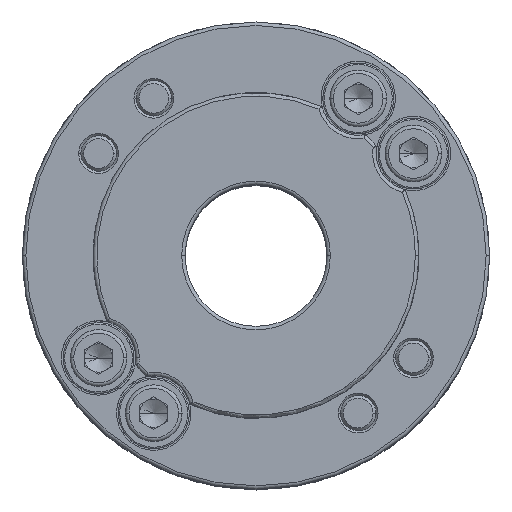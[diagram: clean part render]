
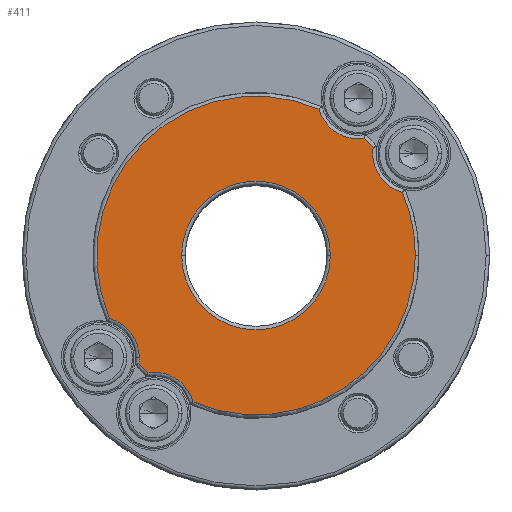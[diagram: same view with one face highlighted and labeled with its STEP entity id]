
A CAD part, top view. The second image highlights one B-rep face of the part: STEP entity #411.
In plain terms, the highlighted planar face has unit normal (0, 0, 1).
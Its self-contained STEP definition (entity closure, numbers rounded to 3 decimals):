
#47 = VERTEX_POINT ( 'NONE', #4621 ) ;
#54 = EDGE_CURVE ( 'NONE', #55, #56, #4669, .T. ) ;
#55 = VERTEX_POINT ( 'NONE', #4664 ) ;
#56 = VERTEX_POINT ( 'NONE', #4663 ) ;
#135 = EDGE_CURVE ( 'NONE', #136, #137, #4821, .T. ) ;
#136 = VERTEX_POINT ( 'NONE', #4816 ) ;
#137 = VERTEX_POINT ( 'NONE', #4815 ) ;
#151 = VERTEX_POINT ( 'NONE', #4791 ) ;
#153 = EDGE_CURVE ( 'NONE', #47, #151, #4854, .T. ) ;
#375 = EDGE_CURVE ( 'NONE', #456, #47, #5254, .T. ) ;
#376 = ORIENTED_EDGE ( 'NONE', *, *, #153, .T. ) ;
#377 = ORIENTED_EDGE ( 'NONE', *, *, #378, .T. ) ;
#378 = EDGE_CURVE ( 'NONE', #151, #391, #5249, .T. ) ;
#385 = EDGE_LOOP ( 'NONE', ( #389, #393, #396, #399, #402, #452, #453, #457, #376, #377 ) ) ;
#386 = ORIENTED_EDGE ( 'NONE', *, *, #387, .T. ) ;
#387 = EDGE_CURVE ( 'NONE', #56, #55, #5296, .T. ) ;
#388 = ORIENTED_EDGE ( 'NONE', *, *, #54, .T. ) ;
#389 = ORIENTED_EDGE ( 'NONE', *, *, #390, .T. ) ;
#390 = EDGE_CURVE ( 'NONE', #391, #392, #5291, .T. ) ;
#391 = VERTEX_POINT ( 'NONE', #5286 ) ;
#392 = VERTEX_POINT ( 'NONE', #5285 ) ;
#393 = ORIENTED_EDGE ( 'NONE', *, *, #394, .T. ) ;
#394 = EDGE_CURVE ( 'NONE', #392, #395, #5284, .T. ) ;
#395 = VERTEX_POINT ( 'NONE', #5279 ) ;
#396 = ORIENTED_EDGE ( 'NONE', *, *, #397, .T. ) ;
#397 = EDGE_CURVE ( 'NONE', #395, #398, #5278, .T. ) ;
#398 = VERTEX_POINT ( 'NONE', #5273 ) ;
#399 = ORIENTED_EDGE ( 'NONE', *, *, #400, .T. ) ;
#400 = EDGE_CURVE ( 'NONE', #398, #401, #5333, .T. ) ;
#401 = VERTEX_POINT ( 'NONE', #5329 ) ;
#402 = ORIENTED_EDGE ( 'NONE', *, *, #454, .T. ) ;
#411 = ADVANCED_FACE ( 'NONE', ( #5326, #5303 ), #5368, .T. ) ;
#412 = EDGE_LOOP ( 'NONE', ( #386, #388 ) ) ;
#452 = ORIENTED_EDGE ( 'NONE', *, *, #135, .T. ) ;
#453 = ORIENTED_EDGE ( 'NONE', *, *, #455, .T. ) ;
#454 = EDGE_CURVE ( 'NONE', #401, #136, #5455, .T. ) ;
#455 = EDGE_CURVE ( 'NONE', #137, #456, #5446, .T. ) ;
#456 = VERTEX_POINT ( 'NONE', #5441 ) ;
#457 = ORIENTED_EDGE ( 'NONE', *, *, #375, .T. ) ;
#4621 = CARTESIAN_POINT ( 'NONE',  ( -8.898, -20.666, 24.5 ) ) ;
#4663 = CARTESIAN_POINT ( 'NONE',  ( 10.5, 0., 24.5 ) ) ;
#4664 = CARTESIAN_POINT ( 'NONE',  ( -10.5, 0., 24.5 ) ) ;
#4665 = DIRECTION ( 'NONE',  ( 1., 0., 0. ) ) ;
#4666 = DIRECTION ( 'NONE',  ( 0., 0., -1. ) ) ;
#4667 = CARTESIAN_POINT ( 'NONE',  ( 0., 0., 24.5 ) ) ;
#4668 = AXIS2_PLACEMENT_3D ( 'NONE', #4667, #4666, #4665 ) ;
#4669 = CIRCLE ( 'NONE', #4668, 10.5 ) ;
#4791 = CARTESIAN_POINT ( 'NONE',  ( 22.5, 0., 24.5 ) ) ;
#4815 = CARTESIAN_POINT ( 'NONE',  ( -16.535, -15.26, 24.5 ) ) ;
#4816 = CARTESIAN_POINT ( 'NONE',  ( -16.475, -14.433, 24.5 ) ) ;
#4817 = DIRECTION ( 'NONE',  ( 1., 0., 0. ) ) ;
#4818 = DIRECTION ( 'NONE',  ( 0., 0., -1. ) ) ;
#4819 = CARTESIAN_POINT ( 'NONE',  ( -22.225, -14.433, 24.5 ) ) ;
#4820 = AXIS2_PLACEMENT_3D ( 'NONE', #4819, #4818, #4817 ) ;
#4821 = CIRCLE ( 'NONE', #4820, 5.75 ) ;
#4850 = DIRECTION ( 'NONE',  ( 1., 0., 0. ) ) ;
#4851 = DIRECTION ( 'NONE',  ( 0., 0., 1. ) ) ;
#4852 = CARTESIAN_POINT ( 'NONE',  ( 0., 0., 24.5 ) ) ;
#4853 = AXIS2_PLACEMENT_3D ( 'NONE', #4852, #4851, #4850 ) ;
#4854 = CIRCLE ( 'NONE', #4853, 22.5 ) ;
#5245 = DIRECTION ( 'NONE',  ( 1., 0., 0. ) ) ;
#5246 = DIRECTION ( 'NONE',  ( 0., 0., 1. ) ) ;
#5247 = CARTESIAN_POINT ( 'NONE',  ( 0., 0., 24.5 ) ) ;
#5248 = AXIS2_PLACEMENT_3D ( 'NONE', #5247, #5246, #5245 ) ;
#5249 = CIRCLE ( 'NONE', #5248, 22.5 ) ;
#5250 = DIRECTION ( 'NONE',  ( 1., 0., 0. ) ) ;
#5251 = DIRECTION ( 'NONE',  ( 0., 0., -1. ) ) ;
#5252 = CARTESIAN_POINT ( 'NONE',  ( -14.433, -22.225, 24.5 ) ) ;
#5253 = AXIS2_PLACEMENT_3D ( 'NONE', #5252, #5251, #5250 ) ;
#5254 = CIRCLE ( 'NONE', #5253, 5.75 ) ;
#5272 = CARTESIAN_POINT ( 'NONE',  ( 0., 0., 24.5 ) ) ;
#5273 = CARTESIAN_POINT ( 'NONE',  ( 8.898, 20.666, 24.5 ) ) ;
#5274 = DIRECTION ( 'NONE',  ( 1., 0., 0. ) ) ;
#5275 = DIRECTION ( 'NONE',  ( 0., 0., -1. ) ) ;
#5276 = CARTESIAN_POINT ( 'NONE',  ( 14.433, 22.225, 24.5 ) ) ;
#5277 = AXIS2_PLACEMENT_3D ( 'NONE', #5276, #5275, #5274 ) ;
#5278 = CIRCLE ( 'NONE', #5277, 5.75 ) ;
#5279 = CARTESIAN_POINT ( 'NONE',  ( 15.26, 16.535, 24.5 ) ) ;
#5280 = DIRECTION ( 'NONE',  ( 1., 0., 0. ) ) ;
#5281 = DIRECTION ( 'NONE',  ( 0., 0., 1. ) ) ;
#5282 = CARTESIAN_POINT ( 'NONE',  ( 0., 0., 24.5 ) ) ;
#5283 = AXIS2_PLACEMENT_3D ( 'NONE', #5282, #5281, #5280 ) ;
#5284 = CIRCLE ( 'NONE', #5283, 22.5 ) ;
#5285 = CARTESIAN_POINT ( 'NONE',  ( 16.535, 15.26, 24.5 ) ) ;
#5286 = CARTESIAN_POINT ( 'NONE',  ( 20.666, 8.898, 24.5 ) ) ;
#5287 = DIRECTION ( 'NONE',  ( 1., 0., 0. ) ) ;
#5288 = DIRECTION ( 'NONE',  ( 0., 0., -1. ) ) ;
#5289 = CARTESIAN_POINT ( 'NONE',  ( 22.225, 14.433, 24.5 ) ) ;
#5290 = AXIS2_PLACEMENT_3D ( 'NONE', #5289, #5288, #5287 ) ;
#5291 = CIRCLE ( 'NONE', #5290, 5.75 ) ;
#5292 = DIRECTION ( 'NONE',  ( 1., 0., 0. ) ) ;
#5293 = DIRECTION ( 'NONE',  ( 0., 0., -1. ) ) ;
#5294 = CARTESIAN_POINT ( 'NONE',  ( 0., 0., 24.5 ) ) ;
#5295 = AXIS2_PLACEMENT_3D ( 'NONE', #5294, #5293, #5292 ) ;
#5296 = CIRCLE ( 'NONE', #5295, 10.5 ) ;
#5303 = FACE_OUTER_BOUND ( 'NONE', #385, .T. ) ;
#5326 = FACE_BOUND ( 'NONE', #412, .T. ) ;
#5329 = CARTESIAN_POINT ( 'NONE',  ( -20.666, -8.898, 24.5 ) ) ;
#5330 = DIRECTION ( 'NONE',  ( 1., 0., 0. ) ) ;
#5331 = DIRECTION ( 'NONE',  ( 0., 0., 1. ) ) ;
#5332 = AXIS2_PLACEMENT_3D ( 'NONE', #5272, #5331, #5330 ) ;
#5333 = CIRCLE ( 'NONE', #5332, 22.5 ) ;
#5364 = DIRECTION ( 'NONE',  ( 1., 0., 0. ) ) ;
#5365 = DIRECTION ( 'NONE',  ( 0., 0., 1. ) ) ;
#5366 = CARTESIAN_POINT ( 'NONE',  ( 0., -72.741, 24.5 ) ) ;
#5367 = AXIS2_PLACEMENT_3D ( 'NONE', #5366, #5365, #5364 ) ;
#5368 = PLANE ( 'NONE',  #5367 ) ;
#5441 = CARTESIAN_POINT ( 'NONE',  ( -15.26, -16.535, 24.5 ) ) ;
#5442 = DIRECTION ( 'NONE',  ( 1., 0., 0. ) ) ;
#5443 = DIRECTION ( 'NONE',  ( 0., 0., 1. ) ) ;
#5444 = CARTESIAN_POINT ( 'NONE',  ( 0., 0., 24.5 ) ) ;
#5445 = AXIS2_PLACEMENT_3D ( 'NONE', #5444, #5443, #5442 ) ;
#5446 = CIRCLE ( 'NONE', #5445, 22.5 ) ;
#5447 = DIRECTION ( 'NONE',  ( 1., 0., 0. ) ) ;
#5448 = DIRECTION ( 'NONE',  ( 0., 0., -1. ) ) ;
#5449 = CARTESIAN_POINT ( 'NONE',  ( -22.225, -14.433, 24.5 ) ) ;
#5450 = AXIS2_PLACEMENT_3D ( 'NONE', #5449, #5448, #5447 ) ;
#5455 = CIRCLE ( 'NONE', #5450, 5.75 ) ;
